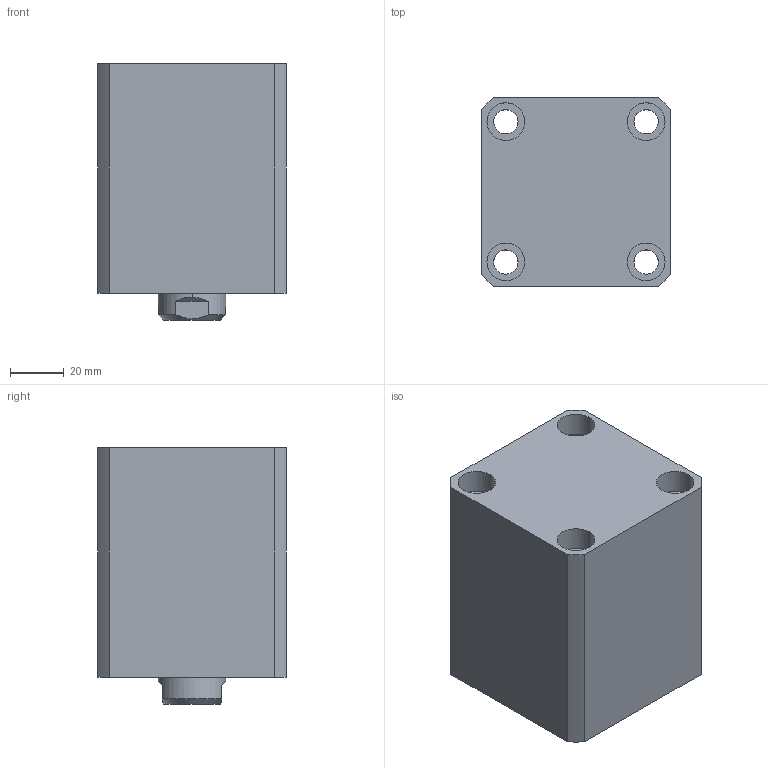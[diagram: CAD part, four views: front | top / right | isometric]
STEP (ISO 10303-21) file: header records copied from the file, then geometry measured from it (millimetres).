
FILE_DESCRIPTION (( 'STEP AP214' ), '1' );
FILE_NAME ('chtb-sd40x30n_asm.STEP', '2018-06-07T08:32:50', ( 'Windows' ), ( 'Microsoft' ), 'SwSTEP 2.0', 'SolidWorks 2015', '' );
FILE_SCHEMA (( 'AUTOMOTIVE_DESIGN' ));
Length unit declared in the file: millimetre
Products named in the file (4): CHTB-SD40X30NHSG; CHTB-SD40X30NBT; CHTB-SD40QG; chtb-sd40x30n_asm
Assembly tree (3 placements, depth 2):
  chtb-sd40x30n_asm
    CHTB-SD40QG
    CHTB-SD40X30NBT
    CHTB-SD40X30NHSG
Bounding box: 70 x 70 x 95 mm (x, y, z)
Volume: 354967.2 mm3; surface area: 76625.6 mm2
Topology: 3 solids, 3 shells, 157 faces, 401 edges, 266 vertices
Faces by surface type: cylinder 80, plane 36, bspline 14, torus 14, cone 13
Entity records: 9977 total; most frequent: CARTESIAN_POINT 6053, ORIENTED_EDGE 790, DIRECTION 768, EDGE_CURVE 395, AXIS2_PLACEMENT_3D 328, VERTEX_POINT 266, EDGE_LOOP 193, CIRCLE 179
